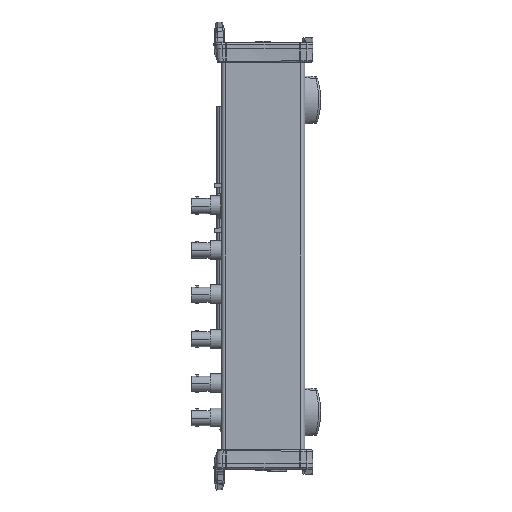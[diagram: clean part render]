
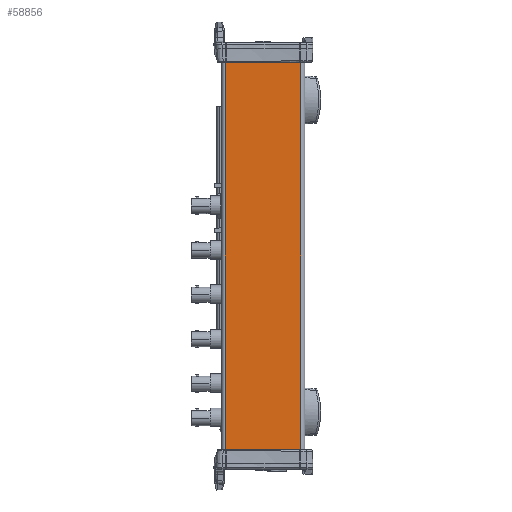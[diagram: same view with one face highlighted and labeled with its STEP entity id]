
A CAD part, left-side view. The second image highlights one B-rep face of the part: STEP entity #58856.
In plain terms, the highlighted planar face has unit normal (-1, 0, 0).
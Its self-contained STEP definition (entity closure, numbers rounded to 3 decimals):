
#4920=DIRECTION('',(0.,0.,-1.));
#4921=VECTOR('',#4920,10.247);
#4922=CARTESIAN_POINT('',(-3.365,1.97,5.123));
#4923=LINE('',#4922,#4921);
#5298=DIRECTION('',(0.,1.,0.));
#5299=VECTOR('',#5298,1.87);
#5300=CARTESIAN_POINT('',(-3.365,0.1,5.123));
#5301=LINE('',#5300,#5299);
#5302=DIRECTION('',(0.,-1.,0.));
#5303=VECTOR('',#5302,1.87);
#5304=CARTESIAN_POINT('',(-3.365,1.97,-5.123));
#5305=LINE('',#5304,#5303);
#12464=DIRECTION('',(0.,0.,-1.));
#12465=VECTOR('',#12464,10.247);
#12466=CARTESIAN_POINT('',(-3.365,0.1,5.123));
#12467=LINE('',#12466,#12465);
#51042=CARTESIAN_POINT('',(-3.365,1.97,-5.123));
#51043=CARTESIAN_POINT('',(-3.365,0.1,-5.123));
#51044=VERTEX_POINT('',#51042);
#51045=VERTEX_POINT('',#51043);
#51847=CARTESIAN_POINT('',(-3.365,0.1,5.123));
#51848=CARTESIAN_POINT('',(-3.365,1.97,5.123));
#51849=VERTEX_POINT('',#51847);
#51850=VERTEX_POINT('',#51848);
#58843=CARTESIAN_POINT('',(-3.365,2.07,-5.125));
#58844=DIRECTION('',(-1.,0.,0.));
#58845=DIRECTION('',(0.,-1.,0.));
#58846=AXIS2_PLACEMENT_3D('',#58843,#58844,#58845);
#58847=PLANE('',#58846);
#58849=ORIENTED_EDGE('',*,*,#58848,.F.);
#58851=ORIENTED_EDGE('',*,*,#58850,.T.);
#58852=ORIENTED_EDGE('',*,*,#58834,.F.);
#58853=ORIENTED_EDGE('',*,*,#58134,.F.);
#58854=EDGE_LOOP('',(#58849,#58851,#58852,#58853));
#58855=FACE_OUTER_BOUND('',#58854,.F.);
#58856=ADVANCED_FACE('',(#58855),#58847,.T.);
#58134=EDGE_CURVE('',#51850,#51044,#4923,.T.);
#58834=EDGE_CURVE('',#51044,#51045,#5305,.T.);
#58848=EDGE_CURVE('',#51849,#51850,#5301,.T.);
#58850=EDGE_CURVE('',#51849,#51045,#12467,.T.);
